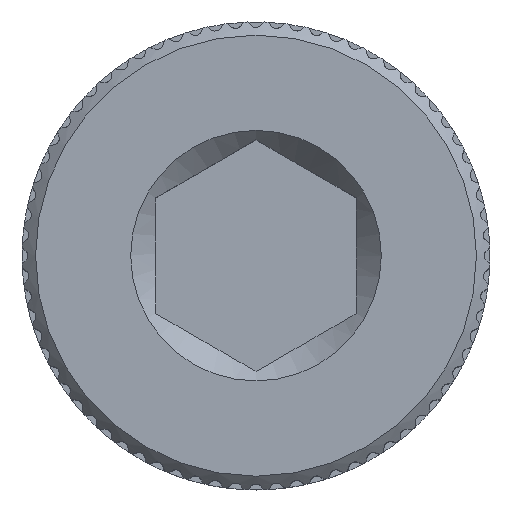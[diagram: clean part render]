
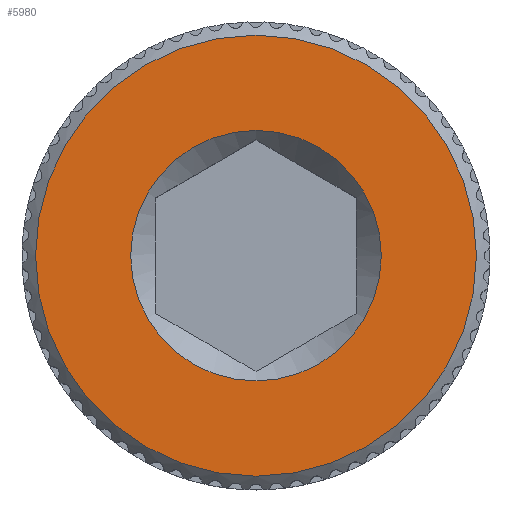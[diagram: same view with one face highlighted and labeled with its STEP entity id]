
A CAD part, top view. The second image highlights one B-rep face of the part: STEP entity #5980.
In plain terms, the highlighted planar face has unit normal (0, 0, 1).
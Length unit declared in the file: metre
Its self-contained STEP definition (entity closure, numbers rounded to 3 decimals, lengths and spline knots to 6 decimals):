
#15=PLANE('',#6464);
#2153=ORIENTED_EDGE('',*,*,#3503,.F.);
#2154=ORIENTED_EDGE('',*,*,#3789,.F.);
#3503=EDGE_CURVE('NONE',#4473,#4473,#5043,.T.);
#3789=EDGE_CURVE('NONE',#4750,#4750,#5116,.T.);
#4473=VERTEX_POINT('',#9048);
#4750=VERTEX_POINT('',#10257);
#5043=CIRCLE('',#6310,0.001875);
#5116=CIRCLE('',#6384,0.0033);
#5279=EDGE_LOOP('',(#2153));
#5280=EDGE_LOOP('',(#2154));
#5595=FACE_BOUND('',#5279,.T.);
#5596=FACE_BOUND('',#5280,.T.);
#5980=ADVANCED_FACE('NONE',(#5595,#5596),#15,.T.);
#6310=AXIS2_PLACEMENT_3D('',#9047,#6888,#6889);
#6384=AXIS2_PLACEMENT_3D('',#10256,#7036,#7037);
#6464=AXIS2_PLACEMENT_3D('',#10628,#7340,#7341);
#6888=DIRECTION('',(0.,0.,1.));
#6889=DIRECTION('',(1.,0.,0.));
#7036=DIRECTION('',(0.,0.,-1.));
#7037=DIRECTION('',(0.,1.,0.));
#7340=DIRECTION('',(0.,0.,1.));
#7341=DIRECTION('',(0.,-1.,0.));
#9047=CARTESIAN_POINT('',(0.,0.,0.008));
#9048=CARTESIAN_POINT('',(0.001875,0.,0.008));
#10256=CARTESIAN_POINT('',(0.,0.,0.008));
#10257=CARTESIAN_POINT('',(0.,0.0033,0.008));
#10628=CARTESIAN_POINT('',(0.,0.,0.008));
